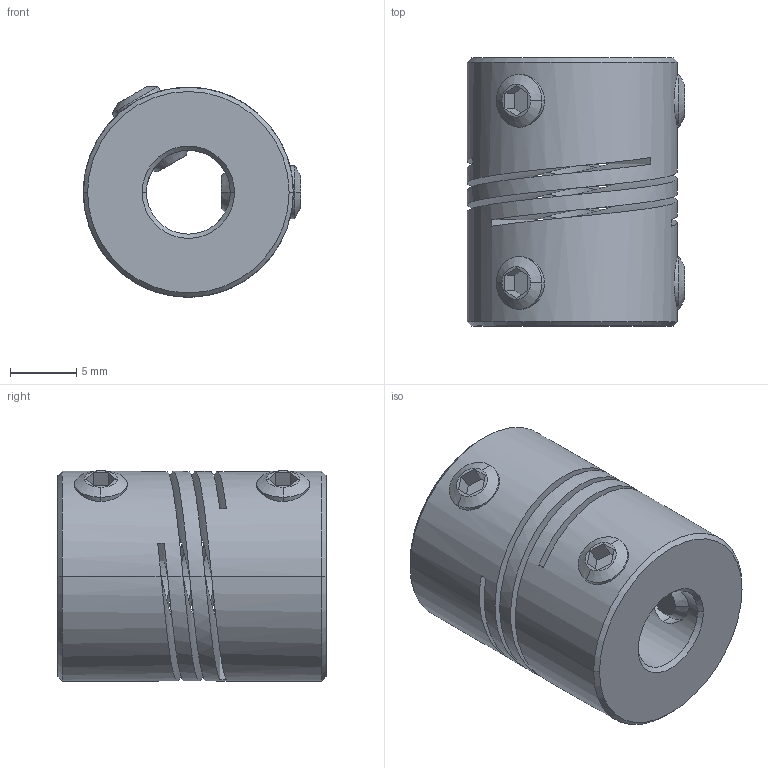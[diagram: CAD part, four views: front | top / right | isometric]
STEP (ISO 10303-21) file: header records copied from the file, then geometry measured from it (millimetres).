
FILE_DESCRIPTION((''),'2;1');
FILE_NAME('720_16_ASM','2006-12-05T',('Gary Melling'),(''),'PRO/ENGINEER BY PARAMETRIC TECHNOLOGY CORPORATION, 2006240','PRO/ENGINEER BY PARAMETRIC TECHNOLOGY CORPORATION, 2006240','');
FILE_SCHEMA(('CONFIG_CONTROL_DESIGN'));
Length unit declared in the file: millimetre
Products named in the file (3): 720_16; GS_4S; 720_16_ASM
Assembly tree (5 placements, depth 2):
  720_16_ASM
    720_16
    GS_4S  x4
Bounding box: 16.45 x 20.3 x 15.94 mm (x, y, z)
Volume: 3098.1 mm3; surface area: 3118.6 mm2
Topology: 5 solids, 5 shells, 106 faces, 276 edges, 176 vertices
Faces by surface type: plane 46, cylinder 30, cone 24, bspline 6
Entity records: 3310 total; most frequent: CARTESIAN_POINT 1659, ORIENTED_EDGE 360, DIRECTION 278, EDGE_CURVE 180, VERTEX_POINT 116, AXIS2_PLACEMENT_3D 95, VECTOR 88, LINE 88
